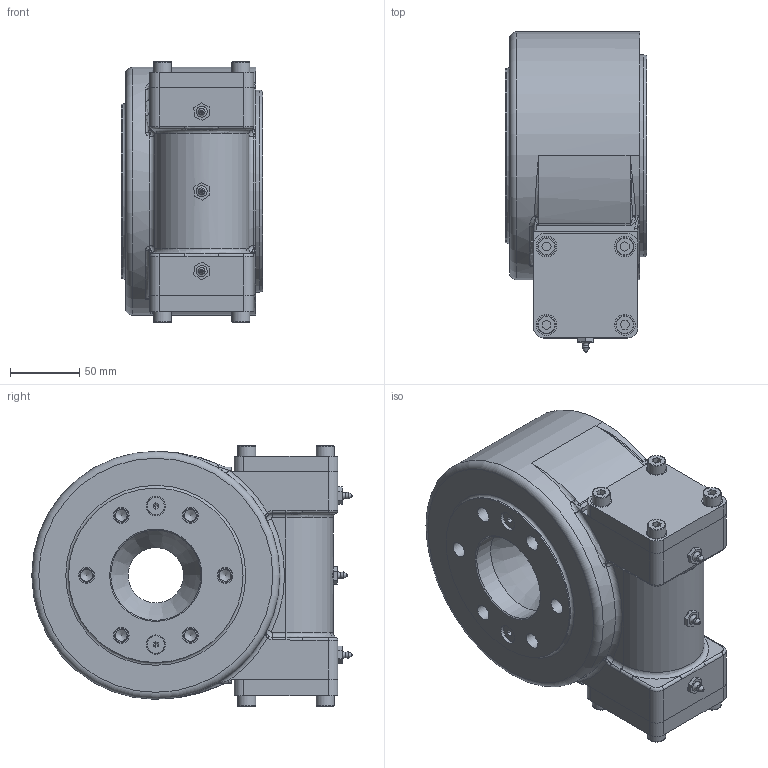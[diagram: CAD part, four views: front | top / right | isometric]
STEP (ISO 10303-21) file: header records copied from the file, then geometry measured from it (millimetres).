
FILE_DESCRIPTION (( 'STEP AP214' ), '1' );
FILE_NAME ('FGA5C-62M-12S-R-REV.A.STEP', '2022-10-19T05:40:58', ( '' ), ( '' ), 'SwSTEP 2.0', 'SolidWorks 2018', '' );
FILE_SCHEMA (( 'AUTOMOTIVE_DESIGN' ));
Length unit declared in the file: millimetre
Products named in the file (1): FGA5C-62M-12S-R-REV.A
Bounding box: 102 x 231.3 x 188 mm (x, y, z)
Volume: 2179380.4 mm3; surface area: 491903.8 mm2
Topology: 21 solids, 21 shells, 1014 faces, 2845 edges, 1822 vertices
Faces by surface type: plane 334, cylinder 236, torus 221, sphere 82, bspline 75, cone 66
Full cylindrical faces by diameter (mm): 4.58 x2, 5 x2, 6 x10, 6.8 x12, 7 x3, 7.42 x2, 8 x22, 8.5 x12, 9 x12, 10 x23, 11.5 x6, 13 x14, 14 x2, 15 x12, 16 x1, 25 x2, 32 x2, 40 x2, 46 x3, 52 x4, 58.3 x1, 65 x1, 65.3 x1, 80 x4, 90 x7, 98 x1, 100 x4, 110 x5, 112.1 x1, 116.5 x1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
Entity records: 49053 total; most frequent: CARTESIAN_POINT 15388, ORIENTED_EDGE 4440, DIRECTION 4316, EDGE_CURVE 2220, AXIS2_PLACEMENT_3D 1918, VERTEX_POINT 1573, EDGE_LOOP 1551, FACE_OUTER_BOUND 1159
